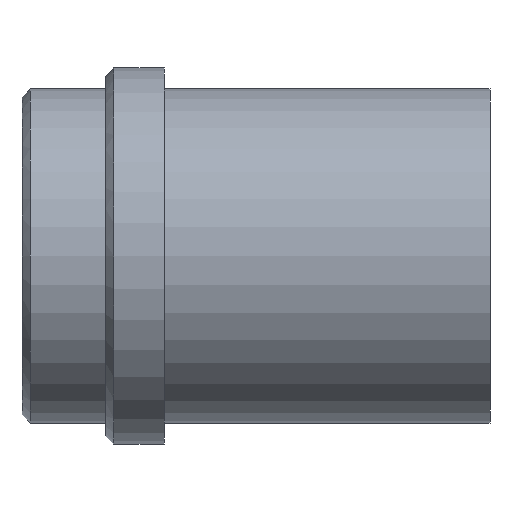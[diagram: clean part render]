
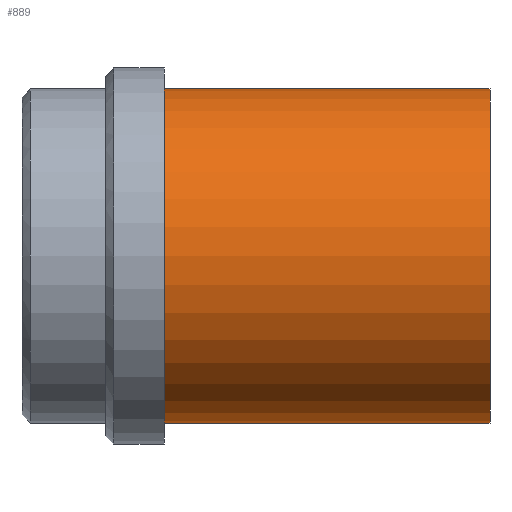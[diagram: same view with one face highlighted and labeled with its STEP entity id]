
A CAD part, front view. The second image highlights one B-rep face of the part: STEP entity #889.
In plain terms, the highlighted cylindrical face has radius 20 mm (diameter 40 mm), a partial arc.
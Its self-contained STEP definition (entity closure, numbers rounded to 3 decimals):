
#723=CARTESIAN_POINT('Vertex',(39.,0.,20.)) ;
#726=CARTESIAN_POINT('Axis2P3D Location',(39.,0.,0.)) ;
#730=CARTESIAN_POINT('Vertex',(39.,-20.,0.)) ;
#733=CARTESIAN_POINT('Axis2P3D Location',(39.,0.,0.)) ;
#737=CARTESIAN_POINT('Vertex',(39.,0.,-20.)) ;
#829=CARTESIAN_POINT('Line Origine',(39.,0.,20.)) ;
#833=CARTESIAN_POINT('Vertex',(0.,0.,20.)) ;
#836=CARTESIAN_POINT('Line Origine',(39.,0.,-20.)) ;
#840=CARTESIAN_POINT('Vertex',(0.,0.,-20.)) ;
#864=CARTESIAN_POINT('Axis2P3D Location',(39.,0.,0.)) ;
#869=CARTESIAN_POINT('Axis2P3D Location',(0.,0.,0.)) ;
#873=CARTESIAN_POINT('Vertex',(0.,-20.,0.)) ;
#876=CARTESIAN_POINT('Axis2P3D Location',(0.,0.,0.)) ;
#727=DIRECTION('Axis2P3D Direction',(1.,0.,-0.)) ;
#734=DIRECTION('Axis2P3D Direction',(1.,0.,-0.)) ;
#830=DIRECTION('Vector Direction',(-1.,0.,0.)) ;
#837=DIRECTION('Vector Direction',(-1.,0.,0.)) ;
#865=DIRECTION('Axis2P3D Direction',(-1.,-0.,-0.)) ;
#866=DIRECTION('Axis2P3D XDirection',(0.,0.,-1.)) ;
#870=DIRECTION('Axis2P3D Direction',(-1.,-0.,-0.)) ;
#877=DIRECTION('Axis2P3D Direction',(-1.,-0.,-0.)) ;
#728=AXIS2_PLACEMENT_3D('Circle Axis2P3D',#726,#727,$) ;
#735=AXIS2_PLACEMENT_3D('Circle Axis2P3D',#733,#734,$) ;
#867=AXIS2_PLACEMENT_3D('Cylinder Axis2P3D',#864,#865,#866) ;
#871=AXIS2_PLACEMENT_3D('Circle Axis2P3D',#869,#870,$) ;
#878=AXIS2_PLACEMENT_3D('Circle Axis2P3D',#876,#877,$) ;
#882=ORIENTED_EDGE('',*,*,#842,.T.) ;
#883=ORIENTED_EDGE('',*,*,#739,.F.) ;
#884=ORIENTED_EDGE('',*,*,#732,.F.) ;
#885=ORIENTED_EDGE('',*,*,#835,.T.) ;
#886=ORIENTED_EDGE('',*,*,#875,.T.) ;
#887=ORIENTED_EDGE('',*,*,#880,.T.) ;
#831=VECTOR('Line Direction',#830,1.) ;
#838=VECTOR('Line Direction',#837,1.) ;
#889=ADVANCED_FACE('358-32X56',(#888),#868,.T.) ;
#729=CIRCLE('generated circle',#728,20.) ;
#736=CIRCLE('generated circle',#735,20.) ;
#872=CIRCLE('generated circle',#871,20.) ;
#879=CIRCLE('generated circle',#878,20.) ;
#868=CYLINDRICAL_SURFACE('generated cylinder',#867,20.) ;
#732=EDGE_CURVE('',#724,#731,#729,.T.) ;
#739=EDGE_CURVE('',#731,#738,#736,.T.) ;
#835=EDGE_CURVE('',#724,#834,#832,.T.) ;
#842=EDGE_CURVE('',#841,#738,#839,.F.) ;
#875=EDGE_CURVE('',#834,#874,#872,.F.) ;
#880=EDGE_CURVE('',#874,#841,#879,.F.) ;
#881=EDGE_LOOP('',(#882,#883,#884,#885,#886,#887)) ;
#888=FACE_OUTER_BOUND('',#881,.T.) ;
#832=LINE('Line',#829,#831) ;
#839=LINE('Line',#836,#838) ;
#724=VERTEX_POINT('',#723) ;
#731=VERTEX_POINT('',#730) ;
#738=VERTEX_POINT('',#737) ;
#834=VERTEX_POINT('',#833) ;
#841=VERTEX_POINT('',#840) ;
#874=VERTEX_POINT('',#873) ;
